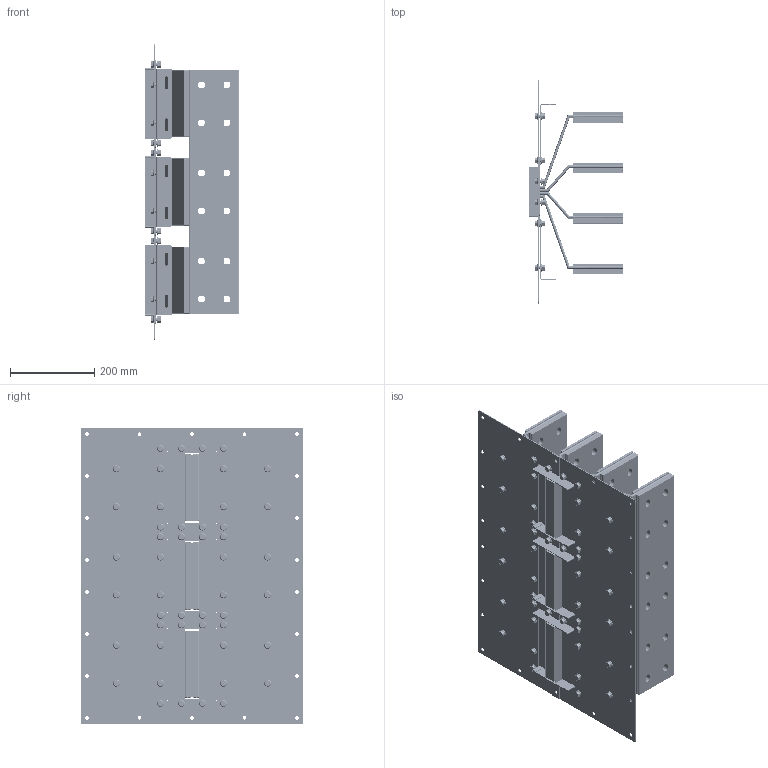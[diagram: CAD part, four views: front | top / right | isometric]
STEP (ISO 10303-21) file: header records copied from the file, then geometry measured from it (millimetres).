
FILE_DESCRIPTION(('CATIA V5 STEP','CAx-IF Rec.Pracs.--- Model Styling and Organization---1.5--- 2016-08-15','CAx-IF Rec.Pracs.---Supplemental Geometry---1.0---2011-11-01','CAx-IF Rec.Pracs.--- Composite Materials ---1.1---2010-07-15'),'2;1');
FILE_NAME('K:\COSCN 2011\32372311_RiduzioneSezioniBarre\03_Studio\__Modelli semplificati\XCP_UB semplificati per studi\XCP-S_UB_4C_Pe_STD_Assieme\Al\XCP-S_UB_4C_Pe_T_Assieme - 5000A Al\XCP-S_UB_4C_Pe_T_Assieme - 5000A Al.stp','2025-05-12T12:47:09+00:00',('Utente Bticino'),('Bticino S.p.A.'),'CATIA Version 5-6 Release 2020 SP5','CATIA V5 STEP AP214 v2','none');
FILE_SCHEMA(('AUTOMOTIVE_DESIGN { 1 0 10303 214 1 1 1 1 }'));
Length unit declared in the file: millimetre
Products named in the file (9): XCP-S_UB_4C_Pe_T_Assieme - 5000A Al; XCP-S_UB_4C_Pe_T_Lamiere_5000A Al; XCP-S_UB_4C_Pe_T_PaccoBarre_5000A Al; XCP-S_UB_4C_Pe_T_PaccoBarre_5000A Al_1; XCP-S_UB_4C_Pe_T_PaccoBarre_5000A Al_2; XCP-S_UB_4C_Pe_T - 5000A Al_Bandelle parallelo; Ass Vite+dado M8; Steel hex flanged SCREW M12x16; Steel hex flanged NUT M8
Assembly tree (55 placements, depth 3):
  XCP-S_UB_4C_Pe_T_Assieme - 5000A Al
    XCP-S_UB_4C_Pe_T_Lamiere_5000A Al
    XCP-S_UB_4C_Pe_T_PaccoBarre_5000A Al
    XCP-S_UB_4C_Pe_T_PaccoBarre_5000A Al_1
    XCP-S_UB_4C_Pe_T_PaccoBarre_5000A Al_2
    XCP-S_UB_4C_Pe_T - 5000A Al_Bandelle parallelo
    Ass Vite+dado M8  x48
      Steel hex flanged SCREW M12x16
      Steel hex flanged NUT M8
Bounding box: 225 x 530 x 705 mm (x, y, z)
Volume: 9589376.8 mm3; surface area: 3808573 mm2
Topology: 134 solids, 134 shells, 3820 faces, 9588 edges, 6132 vertices
Faces by surface type: plane 1652, cylinder 1304, cone 384, bspline 384, torus 96
Entity records: 51635 total; most frequent: CARTESIAN_POINT 10500, ORIENTED_EDGE 9212, DIRECTION 6576, EDGE_CURVE 4606, VERTEX_POINT 3030, VECTOR 2928, LINE 2928, AXIS2_PLACEMENT_3D 2614
